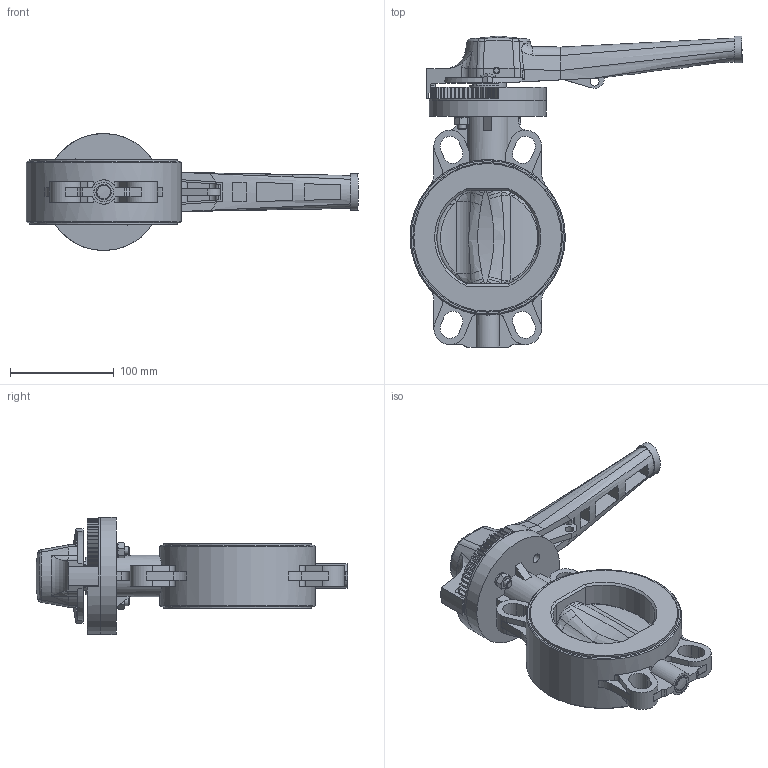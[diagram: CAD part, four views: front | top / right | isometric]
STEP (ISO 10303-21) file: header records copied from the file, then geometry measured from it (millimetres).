
FILE_DESCRIPTION(/* description */ ('Corpo valvola a farfalla Pro Flow d.110 - DN 100','CAx-IF Rec.Pracs.---Representation and Presentation of Product Manufacturing Information (PMI)---3.8---2014-02-18'),/* implementation_level */ '2;1');
FILE_NAME(/* name */ 'C:\Users\POLYPIPE\Desktop\DATASET INVENTOR\LIBRERIA EFFAST\3D_VALVOLE\3D_VALVOLE A FARFALLA PRO FLOW\FDRPFH\3D_FDRPFH1100.stp',/* time_stamp */ '2018-04-20T16:28:18+02:00',/* author */ ('POLYPIPE'),/* organization */ ('Polypipe Italia s.r.l.'),/* preprocessor_version */ 'ST-DEVELOPER v16.1',/* originating_system */ 'Autodesk Inventor 2016',/* authorisation */ '');
FILE_SCHEMA (('AP242_MANAGED_MODEL_BASED_3D_ENGINEERING_MIM_LF { 1 0 10303 442 1 1 4 }'));
Length unit declared in the file: millimetre
Products named in the file (13): 3D_FxxFCO1100 (6_3); 3D_FDRGCO110x; 3D_FDRDHF1100 (2_0_A); FDRCAP0750 - 1_0; 3D_FDRFRP0750 (4_0); 3D_FDRFHx0750 (5_0); 3D_FDRFSH0750 (6_0); ISO 8734 - 6 x 60 - AISO (2); UNI 5588 - M8 - 1,25; ISO 4017 - M8 x 35 - ISO; UNI 6592 - 8,4 x 14; 3D_FDRAST110x (4_0); 3D_Pro Flow 110
Assembly tree (15 placements, depth 2):
  3D_Pro Flow 110
    3D_FxxFCO1100 (6_3)
    3D_FDRGCO110x
    3D_FDRDHF1100 (2_0_A)
    FDRCAP0750 - 1_0
    3D_FDRFRP0750 (4_0)
    3D_FDRFHx0750 (5_0)
    3D_FDRFSH0750 (6_0)
    ISO 8734 - 6 x 60 - AISO (2)
    UNI 5588 - M8 - 1,25  x2
    ISO 4017 - M8 x 35 - ISO  x2
    UNI 6592 - 8,4 x 14  x2
    3D_FDRAST110x (4_0)
Bounding box: 320.5 x 301.06 x 113 mm (x, y, z)
Volume: 1483258.6 mm3; surface area: 338828.1 mm2
Topology: 15 solids, 15 shells, 825 faces, 2127 edges, 1337 vertices
Faces by surface type: plane 353, cylinder 233, bspline 153, cone 60, torus 23, sphere 3
Full cylindrical faces by diameter (mm): 6 x4, 6.647 x2, 8 x2, 8.4 x2, 8.5 x1, 9 x6, 10 x1, 10.5 x1, 11.63 x2, 12 x1, 12.6 x1, 14 x2, 15 x1, 19 x2, 20.5 x1, 21 x2, 27.6 x1, 28 x2, 29 x2, 29.2 x1, 36 x1, 113 x3, 113.2 x1, 131.5 x2, 142.5 x2, 144.5 x2, 150 x1
Entity records: 29090 total; most frequent: CARTESIAN_POINT 10794, ORIENTED_EDGE 3870, DIRECTION 3458, EDGE_CURVE 1935, AXIS2_PLACEMENT_3D 1297, VERTEX_POINT 1263, EDGE_LOOP 908, LINE 864
